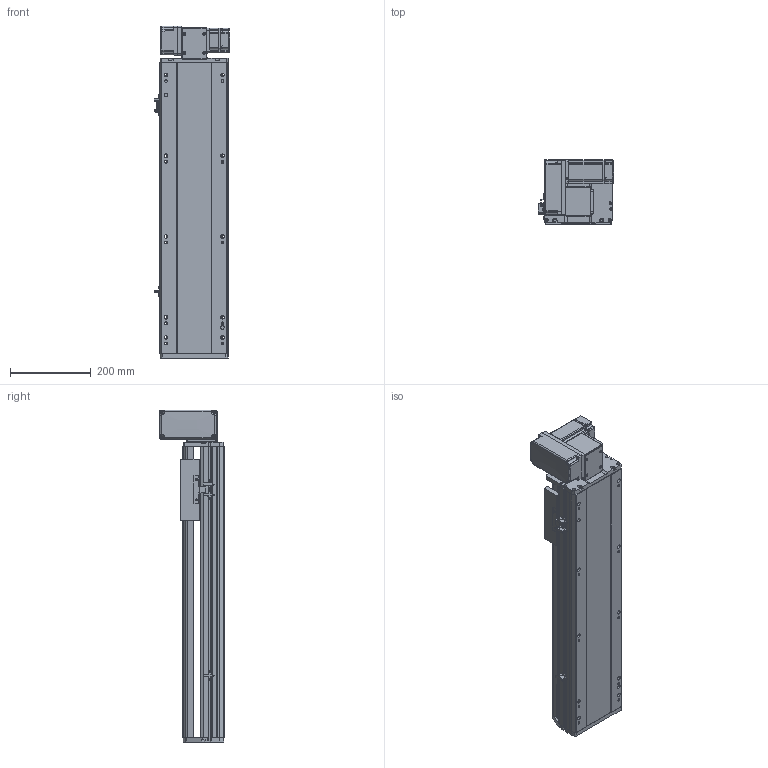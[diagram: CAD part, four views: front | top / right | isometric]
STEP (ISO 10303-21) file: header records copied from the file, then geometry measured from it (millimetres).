
FILE_DESCRIPTION (( 'STEP AP214' ), '1' );
FILE_NAME ('RTB17S-XX-450-LW-M40-C4.STEP', '2025-12-11T06:57:25', ( '' ), ( '' ), 'SwSTEP 2.0', 'SolidWorks 2018', '' );
FILE_SCHEMA (( 'AUTOMOTIVE_DESIGN' ));
Length unit declared in the file: millimetre
Products named in the file (14): RTB17S-L-007奻裔^RTB17S-XX-XX-LW-M40-C4; RTB17S-L-001耜醱啣^RTB17S-XX-XX-LW-M40-C4; RTB14-L-008-M20--萇儂啣^RTB17S-LW-々湍釱蚾饜-400W_RTB17S-XX-XX-LW-M40-C4; RTB14-L-017P^RTB17S-LW-々湍釱蚾饜-400W_RTB17S-XX-XX-LW-M40-C4; RTB14-L-018P^RTB17S-LW-々湍釱蚾饜-400W_RTB17S-XX-XX-LW-M40-C4; RTB17S-L-004佪裝蹟譫蟀諉釱^RTB17S-XX-XX-LW-M40-C4; RTB17S-LW-々湍釱蚾饜-400W^RTB17S-XX-XX-LW-M40-C4; OMRON EE-SX672 传感器^RTB17S-XX-XX-LW-M40-C4; RTH13-BL-012覜茼え俋离^RTB17S-XX-XX-LW-M40-C4; RTB17S-L-014-T20--々湍釱^RTB17S-LW-々湍釱蚾饜-400W_RTB17S-XX-XX-LW-M40-C4; RTB14-L-005P--轴承塑胶压盖^RTB17S-LW-皮带座装配-400W_RTB17S-XX-XX-LW-M40-C4; RTB17S-XX-450-LW-M40-C4; RTB17-R-011菁釱^RTB17S-XX-XX-LW-M40-C4; 400W侜督萇儂^RTB17S-XX-XX-LW-M40-C4
Assembly tree (16 placements, depth 3):
  RTB17S-XX-450-LW-M40-C4
    RTB17-R-011菁釱^RTB17S-XX-XX-LW-M40-C4
    RTB17S-L-007奻裔^RTB17S-XX-XX-LW-M40-C4
    OMRON EE-SX672 传感器^RTB17S-XX-XX-LW-M40-C4  x3
    RTB17S-L-001耜醱啣^RTB17S-XX-XX-LW-M40-C4
    400W侜督萇儂^RTB17S-XX-XX-LW-M40-C4
    RTB17S-L-004佪裝蹟譫蟀諉釱^RTB17S-XX-XX-LW-M40-C4
    RTH13-BL-012覜茼え俋离^RTB17S-XX-XX-LW-M40-C4
    RTB17S-LW-々湍釱蚾饜-400W^RTB17S-XX-XX-LW-M40-C4
      RTB17S-L-014-T20--々湍釱^RTB17S-LW-々湍釱蚾饜-400W_RTB17S-XX-XX-LW-M40-C4
      RTB14-L-005P--轴承塑胶压盖^RTB17S-LW-皮带座装配-400W_RTB17S-XX-XX-LW-M40-C4
      RTB14-L-008-M20--萇儂啣^RTB17S-LW-々湍釱蚾饜-400W_RTB17S-XX-XX-LW-M40-C4
      RTB14-L-017P^RTB17S-LW-々湍釱蚾饜-400W_RTB17S-XX-XX-LW-M40-C4  x2
      RTB14-L-018P^RTB17S-LW-々湍釱蚾饜-400W_RTB17S-XX-XX-LW-M40-C4
Bounding box: 186 x 160.5 x 822.5 mm (x, y, z)
Volume: 7883927 mm3; surface area: 1010753.2 mm2
Topology: 15 solids, 15 shells, 2173 faces, 5979 edges, 3897 vertices
Faces by surface type: plane 1064, cylinder 661, bspline 301, cone 139, torus 8
Entity records: 61097 total; most frequent: CARTESIAN_POINT 16984, ORIENTED_EDGE 8802, DIRECTION 8216, EDGE_CURVE 4401, VERTEX_POINT 2885, AXIS2_PLACEMENT_3D 2815, LINE 2586, VECTOR 2586
